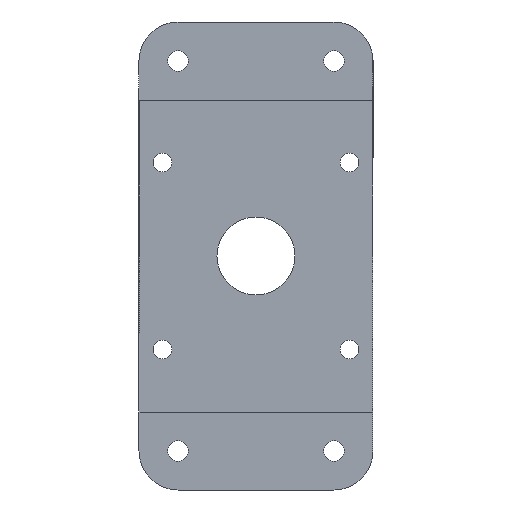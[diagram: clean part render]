
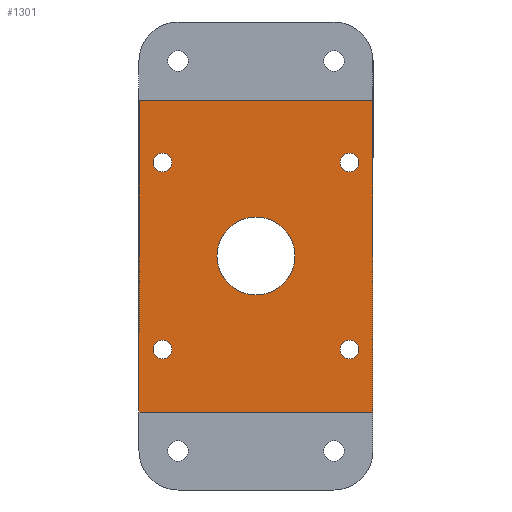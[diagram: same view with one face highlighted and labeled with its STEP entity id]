
A CAD part, front view. The second image highlights one B-rep face of the part: STEP entity #1301.
In plain terms, the highlighted planar face has unit normal (0, -1, 0).
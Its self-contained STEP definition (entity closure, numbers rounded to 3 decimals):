
#11 = FACE_OUTER_BOUND ( 'NONE', #276, .T. ) ;
#19 = CIRCLE ( 'NONE', #317, 12.5 ) ;
#36 = CARTESIAN_POINT ( 'NONE',  ( -30., 0., -27. ) ) ;
#48 = ORIENTED_EDGE ( 'NONE', *, *, #1269, .F. ) ;
#56 = AXIS2_PLACEMENT_3D ( 'NONE', #652, #1599, #482 ) ;
#66 = LINE ( 'NONE', #233, #437 ) ;
#83 = VERTEX_POINT ( 'NONE', #190 ) ;
#94 = AXIS2_PLACEMENT_3D ( 'NONE', #1406, #1318, #1490 ) ;
#136 = EDGE_LOOP ( 'NONE', ( #1539, #1923 ) ) ;
#145 = CIRCLE ( 'NONE', #56, 3. ) ;
#164 = EDGE_CURVE ( 'NONE', #1347, #271, #555, .T. ) ;
#190 = CARTESIAN_POINT ( 'NONE',  ( 30., 0., 33. ) ) ;
#233 = CARTESIAN_POINT ( 'NONE',  ( 37.5, 0., -75. ) ) ;
#257 = CIRCLE ( 'NONE', #491, 3. ) ;
#271 = VERTEX_POINT ( 'NONE', #946 ) ;
#276 = EDGE_LOOP ( 'NONE', ( #886, #48, #982, #638 ) ) ;
#313 = CARTESIAN_POINT ( 'NONE',  ( 30., 0., -27. ) ) ;
#317 = AXIS2_PLACEMENT_3D ( 'NONE', #1871, #1966, #1860 ) ;
#322 = EDGE_CURVE ( 'NONE', #83, #362, #406, .T. ) ;
#323 = CARTESIAN_POINT ( 'NONE',  ( 30., 0., 27. ) ) ;
#337 = EDGE_CURVE ( 'NONE', #831, #1038, #357, .T. ) ;
#357 = LINE ( 'NONE', #1757, #1575 ) ;
#362 = VERTEX_POINT ( 'NONE', #323 ) ;
#383 = EDGE_CURVE ( 'NONE', #1519, #797, #627, .T. ) ;
#406 = CIRCLE ( 'NONE', #1370, 3. ) ;
#419 = LINE ( 'NONE', #1547, #1218 ) ;
#437 = VECTOR ( 'NONE', #733, 1000. ) ;
#475 = PLANE ( 'NONE',  #1208 ) ;
#482 = DIRECTION ( 'NONE',  ( 0., 0., 1. ) ) ;
#491 = AXIS2_PLACEMENT_3D ( 'NONE', #762, #767, #781 ) ;
#555 = LINE ( 'NONE', #1610, #1404 ) ;
#586 = VERTEX_POINT ( 'NONE', #1694 ) ;
#587 = CARTESIAN_POINT ( 'NONE',  ( 37.5, 0., -50. ) ) ;
#615 = ORIENTED_EDGE ( 'NONE', *, *, #1906, .T. ) ;
#627 = CIRCLE ( 'NONE', #1894, 3. ) ;
#638 = ORIENTED_EDGE ( 'NONE', *, *, #1125, .F. ) ;
#640 = DIRECTION ( 'NONE',  ( 0., 1., 0. ) ) ;
#652 = CARTESIAN_POINT ( 'NONE',  ( -30., 0., 30. ) ) ;
#694 = EDGE_LOOP ( 'NONE', ( #795, #1663 ) ) ;
#708 = EDGE_CURVE ( 'NONE', #797, #1519, #1111, .T. ) ;
#725 = CARTESIAN_POINT ( 'NONE',  ( -30., 0., 27. ) ) ;
#733 = DIRECTION ( 'NONE',  ( 0., 0., -1. ) ) ;
#762 = CARTESIAN_POINT ( 'NONE',  ( 30., 0., 30. ) ) ;
#767 = DIRECTION ( 'NONE',  ( 0., 1., 0. ) ) ;
#777 = DIRECTION ( 'NONE',  ( 0., 1., 0. ) ) ;
#781 = DIRECTION ( 'NONE',  ( 0., 0., 1. ) ) ;
#795 = ORIENTED_EDGE ( 'NONE', *, *, #803, .T. ) ;
#797 = VERTEX_POINT ( 'NONE', #36 ) ;
#798 = DIRECTION ( 'NONE',  ( -1., 0., 0. ) ) ;
#803 = EDGE_CURVE ( 'NONE', #1223, #1017, #1342, .T. ) ;
#808 = CARTESIAN_POINT ( 'NONE',  ( 0., 0., 0. ) ) ;
#810 = FACE_BOUND ( 'NONE', #1544, .T. ) ;
#812 = DIRECTION ( 'NONE',  ( 0., 0., 1. ) ) ;
#813 = AXIS2_PLACEMENT_3D ( 'NONE', #977, #1921, #812 ) ;
#820 = DIRECTION ( 'NONE',  ( 1., 0., 0. ) ) ;
#831 = VERTEX_POINT ( 'NONE', #587 ) ;
#862 = CARTESIAN_POINT ( 'NONE',  ( -37.5, 0., 50. ) ) ;
#863 = FACE_BOUND ( 'NONE', #1566, .T. ) ;
#877 = CARTESIAN_POINT ( 'NONE',  ( 0., 0., -12.5 ) ) ;
#886 = ORIENTED_EDGE ( 'NONE', *, *, #337, .F. ) ;
#897 = CARTESIAN_POINT ( 'NONE',  ( -30., 0., 30. ) ) ;
#903 = DIRECTION ( 'NONE',  ( 0., 1., 0. ) ) ;
#908 = DIRECTION ( 'NONE',  ( 0., 0., 1. ) ) ;
#923 = CIRCLE ( 'NONE', #94, 3. ) ;
#930 = EDGE_CURVE ( 'NONE', #362, #83, #257, .T. ) ;
#933 = VERTEX_POINT ( 'NONE', #725 ) ;
#946 = CARTESIAN_POINT ( 'NONE',  ( 37.5, 0., 50. ) ) ;
#960 = AXIS2_PLACEMENT_3D ( 'NONE', #1600, #1638, #1980 ) ;
#962 = DIRECTION ( 'NONE',  ( 0., 0., 1. ) ) ;
#977 = CARTESIAN_POINT ( 'NONE',  ( 0., 0., 0. ) ) ;
#982 = ORIENTED_EDGE ( 'NONE', *, *, #164, .F. ) ;
#986 = AXIS2_PLACEMENT_3D ( 'NONE', #897, #903, #908 ) ;
#994 = CIRCLE ( 'NONE', #986, 3. ) ;
#1017 = VERTEX_POINT ( 'NONE', #1039 ) ;
#1038 = VERTEX_POINT ( 'NONE', #1145 ) ;
#1039 = CARTESIAN_POINT ( 'NONE',  ( 30., 0., -33. ) ) ;
#1085 = CARTESIAN_POINT ( 'NONE',  ( 30., 0., 30. ) ) ;
#1104 = ORIENTED_EDGE ( 'NONE', *, *, #1500, .T. ) ;
#1111 = CIRCLE ( 'NONE', #1958, 3. ) ;
#1125 = EDGE_CURVE ( 'NONE', #1038, #1347, #419, .T. ) ;
#1145 = CARTESIAN_POINT ( 'NONE',  ( -37.5, 0., -50. ) ) ;
#1208 = AXIS2_PLACEMENT_3D ( 'NONE', #808, #1787, #962 ) ;
#1218 = VECTOR ( 'NONE', #1579, 1000. ) ;
#1223 = VERTEX_POINT ( 'NONE', #313 ) ;
#1236 = FACE_BOUND ( 'NONE', #694, .T. ) ;
#1257 = VERTEX_POINT ( 'NONE', #1372 ) ;
#1264 = ORIENTED_EDGE ( 'NONE', *, *, #383, .T. ) ;
#1269 = EDGE_CURVE ( 'NONE', #271, #831, #66, .T. ) ;
#1282 = FACE_BOUND ( 'NONE', #136, .T. ) ;
#1289 = VERTEX_POINT ( 'NONE', #877 ) ;
#1301 = ADVANCED_FACE ( 'NONE', ( #863, #1282, #1659, #1236, #810, #11 ), #475, .F. ) ;
#1318 = DIRECTION ( 'NONE',  ( 0., 1., 0. ) ) ;
#1342 = CIRCLE ( 'NONE', #960, 3. ) ;
#1347 = VERTEX_POINT ( 'NONE', #862 ) ;
#1370 = AXIS2_PLACEMENT_3D ( 'NONE', #1085, #640, #1739 ) ;
#1372 = CARTESIAN_POINT ( 'NONE',  ( 0., 0., 12.5 ) ) ;
#1404 = VECTOR ( 'NONE', #820, 1000. ) ;
#1406 = CARTESIAN_POINT ( 'NONE',  ( 30., 0., -30. ) ) ;
#1451 = DIRECTION ( 'NONE',  ( 0., 0., 1. ) ) ;
#1452 = CARTESIAN_POINT ( 'NONE',  ( -30., 0., -33. ) ) ;
#1490 = DIRECTION ( 'NONE',  ( 0., 0., 1. ) ) ;
#1500 = EDGE_CURVE ( 'NONE', #1257, #1289, #1862, .T. ) ;
#1519 = VERTEX_POINT ( 'NONE', #1452 ) ;
#1539 = ORIENTED_EDGE ( 'NONE', *, *, #1729, .T. ) ;
#1544 = EDGE_LOOP ( 'NONE', ( #615, #1104 ) ) ;
#1547 = CARTESIAN_POINT ( 'NONE',  ( -37.5, 0., -75. ) ) ;
#1566 = EDGE_LOOP ( 'NONE', ( #1991, #1264 ) ) ;
#1575 = VECTOR ( 'NONE', #798, 1000. ) ;
#1579 = DIRECTION ( 'NONE',  ( 0., 0., 1. ) ) ;
#1584 = EDGE_LOOP ( 'NONE', ( #1916, #1735 ) ) ;
#1599 = DIRECTION ( 'NONE',  ( 0., 1., 0. ) ) ;
#1600 = CARTESIAN_POINT ( 'NONE',  ( 30., 0., -30. ) ) ;
#1610 = CARTESIAN_POINT ( 'NONE',  ( -37.5, 0., 50. ) ) ;
#1638 = DIRECTION ( 'NONE',  ( 0., 1., 0. ) ) ;
#1659 = FACE_BOUND ( 'NONE', #1584, .T. ) ;
#1663 = ORIENTED_EDGE ( 'NONE', *, *, #1872, .T. ) ;
#1694 = CARTESIAN_POINT ( 'NONE',  ( -30., 0., 33. ) ) ;
#1719 = CARTESIAN_POINT ( 'NONE',  ( -30., 0., -30. ) ) ;
#1729 = EDGE_CURVE ( 'NONE', #586, #933, #994, .T. ) ;
#1735 = ORIENTED_EDGE ( 'NONE', *, *, #930, .T. ) ;
#1739 = DIRECTION ( 'NONE',  ( 0., 0., 1. ) ) ;
#1757 = CARTESIAN_POINT ( 'NONE',  ( 37.5, 0., -50. ) ) ;
#1779 = CARTESIAN_POINT ( 'NONE',  ( -30., 0., -30. ) ) ;
#1787 = DIRECTION ( 'NONE',  ( 0., 1., 0. ) ) ;
#1860 = DIRECTION ( 'NONE',  ( 0., 0., 1. ) ) ;
#1862 = CIRCLE ( 'NONE', #813, 12.5 ) ;
#1871 = CARTESIAN_POINT ( 'NONE',  ( 0., 0., 0. ) ) ;
#1872 = EDGE_CURVE ( 'NONE', #1017, #1223, #923, .T. ) ;
#1886 = DIRECTION ( 'NONE',  ( 0., 0., 1. ) ) ;
#1894 = AXIS2_PLACEMENT_3D ( 'NONE', #1779, #1939, #1451 ) ;
#1906 = EDGE_CURVE ( 'NONE', #1289, #1257, #19, .T. ) ;
#1916 = ORIENTED_EDGE ( 'NONE', *, *, #322, .T. ) ;
#1921 = DIRECTION ( 'NONE',  ( 0., 1., 0. ) ) ;
#1923 = ORIENTED_EDGE ( 'NONE', *, *, #2009, .T. ) ;
#1939 = DIRECTION ( 'NONE',  ( 0., 1., 0. ) ) ;
#1958 = AXIS2_PLACEMENT_3D ( 'NONE', #1719, #777, #1886 ) ;
#1966 = DIRECTION ( 'NONE',  ( 0., 1., 0. ) ) ;
#1980 = DIRECTION ( 'NONE',  ( 0., 0., 1. ) ) ;
#1991 = ORIENTED_EDGE ( 'NONE', *, *, #708, .T. ) ;
#2009 = EDGE_CURVE ( 'NONE', #933, #586, #145, .T. ) ;
